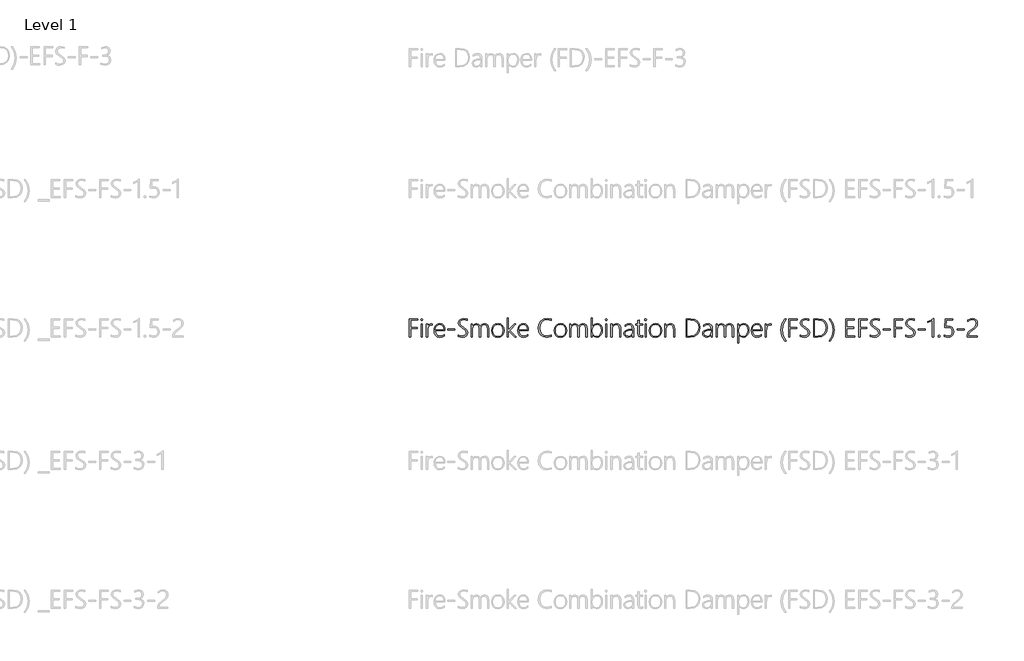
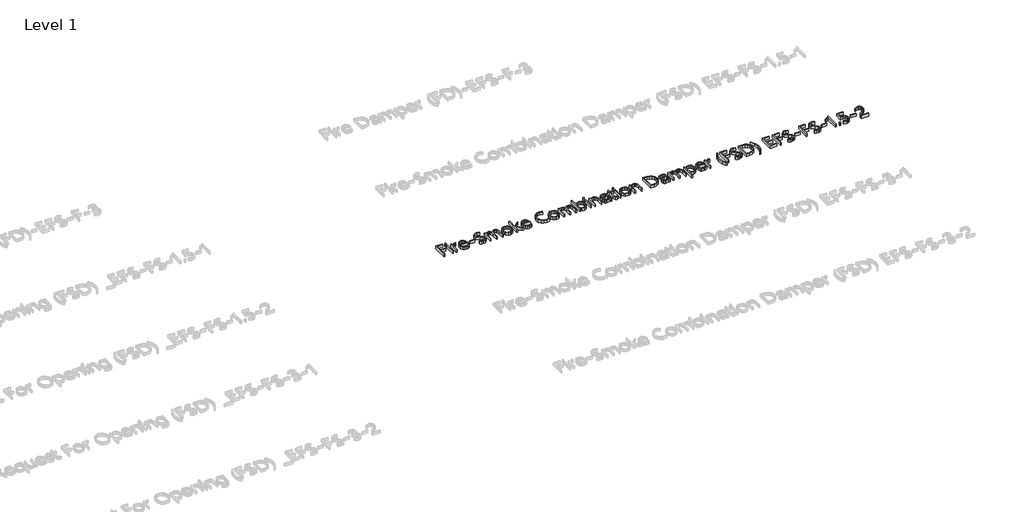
# One storey, part 9 of 13: 1 proxy.
"""IFC4 building model written with IfcOpenShell, lengths in millimetres."""

from ifc_helpers import new_model, si_unit, origin, origin_with_axes, place, context, project, spatial, polyline, outline, extrude, element, save

model = new_model("IFC4")

# Units and contexts
model_context = context("Model", 3, world=origin())
ifc_project = project(units=[si_unit("LENGTHUNIT", "METRE", prefix="MILLI")], contexts=[model_context])

# Site, building, storey
site = spatial("IfcSite", under=ifc_project)
building = spatial("IfcBuilding", under=site)
storey = spatial("IfcBuildingStorey", under=building, Name="Level 1", Elevation=0.0)

# Proxy
placement = place(None, origin())
element("IfcBuildingElementProxy", 1, Name="24\" Arial", ObjectType="24\" Arial", at=placement, inside=storey, context=model_context, shape_type="SweptSolid", body=[
    extrude(outline(polyline([(-11432.1552252, 5549.8953714), (-11432.1552252, 5509.1017359), (-11395.1999406, 5509.1017359), (-11395.1999406, 5502.8235032), (-11432.1552252, 5502.8235032), (-11432.1552252, 5456.2277095), (-11439.0583058, 5456.2277095), (-11439.0583058, 5556.2331135), (-11392.3137388, 5556.2331135), (-11392.3137388, 5549.8953714), (-11432.1552252, 5549.8953714)])), origin_with_axes(), (0.0, 0.0, 1.0), 20.0),
    extrude(outline(polyline([(-11370.6523481, 5545.6404554), (-11374.3419256, 5547.1728202), (-11375.9486771, 5551.0855577), (-11374.312171, 5554.8048899), (-11370.6523481, 5556.2331135), (-11366.8437519, 5554.8346446), (-11365.2072458, 5551.0855577), (-11366.8139973, 5547.2472069), (-11370.6523481, 5545.6404554)])), origin_with_axes(), (0.0, 0.0, 1.0), 20.0),
    extrude(outline(polyline([(-11373.8063418, 5456.2277095), (-11373.8063418, 5527.6388876), (-11367.3793358, 5527.6388876), (-11367.3793358, 5456.2277095), (-11373.8063418, 5456.2277095)])), origin_with_axes(), (0.0, 0.0, 1.0), 20.0),
    extrude(outline(polyline([(-11311.5595982, 5520.9440896), (-11319.0875266, 5523.2351983), (-11326.8348955, 5521.0556696), (-11333.2358662, 5514.5170836), (-11337.5316949, 5503.9690575), (-11338.9636378, 5489.7612085), (-11338.9636378, 5456.2277095), (-11345.2418706, 5456.2277095), (-11345.2418706, 5527.6388876), (-11338.9636378, 5527.6388876), (-11338.9636378, 5511.8094098), (-11330.9298803, 5524.4997712), (-11318.6709614, 5529.0373565), (-11311.5595982, 5527.7876609), (-11311.5595982, 5520.9440896)])), origin_with_axes(), (0.0, 0.0, 1.0), 20.0),
    extrude(outline(polyline([(-11296.0871763, 5491.6655066), (-11294.3874415, 5478.5437026), (-11289.288237, 5468.6354017), (-11281.2284442, 5462.4092396), (-11270.6469441, 5460.3338522), (-11258.7748357, 5462.5505742), (-11247.2002739, 5469.2007402), (-11247.2002739, 5462.3571689), (-11258.9384863, 5456.4434307), (-11271.956149, 5454.4721847), (-11284.4382279, 5456.9492599), (-11294.2721422, 5464.3804856), (-11300.6545162, 5476.3269806), (-11302.7819742, 5492.3498637), (-11300.5578136, 5506.7436793), (-11293.8853316, 5518.6827356), (-11283.6571681, 5526.7164932), (-11270.7659627, 5529.3944124), (-11259.0091537, 5527.0549524), (-11250.3393903, 5520.0365726), (-11244.99471, 5508.978998), (-11243.2131498, 5494.5219537), (-11243.2131498, 5491.6655066), (-11296.0871763, 5491.6655066)]), holes=[polyline([(-11249.9079478, 5497.5271741), (-11251.6188406, 5508.4768881), (-11255.8588793, 5516.6891736), (-11262.4123426, 5521.821852), (-11271.0635093, 5523.5327448), (-11280.2316631, 5521.8478873), (-11287.6814855, 5516.7933149), (-11293.0112886, 5508.6070647), (-11295.8193844, 5497.5271741), (-11249.9079478, 5497.5271741)])]), origin_with_axes(), (0.0, 0.0, 1.0), 20.0),
    extrude(outline(polyline([(-11226.5802963, 5494.9385189), (-11226.5802963, 5501.2167517), (-11188.4348253, 5501.2167517), (-11188.4348253, 5494.9385189), (-11226.5802963, 5494.9385189)])), origin_with_axes(), (0.0, 0.0, 1.0), 20.0),
    extrude(outline(polyline([(-11169.867919, 5459.7982684), (-11169.867919, 5467.653498), (-11159.0595396, 5462.5431355), (-11148.1172643, 5460.8396814), (-11130.3239791, 5465.6748132), (-11125.7715165, 5471.4806908), (-11124.254029, 5479.2280597), (-11128.3452944, 5491.4721013), (-11146.0344383, 5503.9244255), (-11165.2708244, 5518.7571223), (-11169.3025805, 5532.5186514), (-11167.2457898, 5542.3116531), (-11161.0754177, 5550.5053419), (-11151.4758213, 5556.0508662), (-11139.1313577, 5557.8993743), (-11121.2785632, 5554.8941539), (-11121.2785632, 5547.6637721), (-11140.0239975, 5551.6211416), (-11156.1658992, 5546.4587085), (-11160.6402558, 5540.6007603), (-11162.131708, 5533.3517818), (-11158.0553199, 5521.1523722), (-11140.4405627, 5508.8041893), (-11121.7843924, 5494.6856043), (-11117.1426658, 5480.50751), (-11119.1399472, 5470.0561866), (-11125.1317914, 5461.7323211), (-11134.7685811, 5456.2872188), (-11147.7006991, 5454.4721847), (-11159.5876848, 5456.0789362), (-11169.867919, 5459.7982684)])), origin_with_axes(), (0.0, 0.0, 1.0), 20.0),
    extrude(outline(polyline([(-11008.1216006, 5456.2277095), (-11008.1216006, 5499.193435), (-11012.3467619, 5518.0876425), (-11017.7993029, 5522.1714692), (-11025.7066032, 5523.5327448), (-11033.5581134, 5521.7177107), (-11040.271508, 5516.2726084), (-11044.8797606, 5508.0900776), (-11046.4158448, 5498.062758), (-11046.4158448, 5456.2277095), (-11052.8428509, 5456.2277095), (-11052.8428509, 5499.6695095), (-11057.3729975, 5517.566936), (-11063.0356807, 5522.0412926), (-11070.9634373, 5523.5327448), (-11078.9488435, 5521.7102721), (-11085.4688329, 5516.2428537), (-11089.8092935, 5507.881795), (-11091.2561137, 5497.3784008), (-11091.2561137, 5456.2277095), (-11097.6831198, 5456.2277095), (-11097.6831198, 5527.6388876), (-11091.2561137, 5527.6388876), (-11091.2561137, 5515.7965339), (-11081.7941327, 5525.9949427), (-11069.1484032, 5529.3944124), (-11055.8034393, 5524.8865817), (-11048.2903883, 5513.0591054), (-11038.7093885, 5525.0948643), (-11025.1412647, 5529.3944124), (-11014.8963642, 5527.5812379), (-11007.5785781, 5522.1417146), (-11003.1879064, 5513.0758424), (-11001.7243492, 5500.3836213), (-11001.7243492, 5456.2277095), (-11008.1216006, 5456.2277095)])), origin_with_axes(), (0.0, 0.0, 1.0), 20.0),
    extrude(outline(polyline([(-10950.9331488, 5454.4721847), (-10964.9252765, 5457.0459625), (-10975.6592692, 5464.7672962), (-10982.4879631, 5476.6022112), (-10984.7641944, 5491.5167333), (-10982.3838218, 5507.3722464), (-10975.242704, 5519.3522154), (-10964.2186034, 5526.8838631), (-10950.1892823, 5529.3944124), (-10936.5058592, 5526.8987405), (-10926.0433777, 5519.4117248), (-10919.4043698, 5507.5135811), (-10917.1913671, 5491.7845252), (-10919.4490018, 5476.7063525), (-10926.2219057, 5464.7970508), (-10936.9149857, 5457.0534012), (-10950.9331488, 5454.4721847)]), holes=[polyline([(-10950.4570742, 5523.5327448), (-10961.7935988, 5521.4052868), (-10970.5712227, 5515.0229128), (-10976.194853, 5504.8542586), (-10978.0693964, 5491.36796), (-10976.239485, 5478.7296692), (-10970.7497507, 5468.8436843), (-10962.0837067, 5462.4613102), (-10950.7248662, 5460.3338522), (-10939.3176743, 5462.4278362), (-10930.8636323, 5468.7097883), (-10925.6305319, 5478.7036339), (-10923.8861651, 5491.9332985), (-10925.6193739, 5505.4233164), (-10930.8190003, 5515.3650913), (-10939.1949364, 5521.4908315), (-10950.4570742, 5523.5327448)])]), origin_with_axes(), (0.0, 0.0, 1.0), 20.0),
    extrude(outline(polyline([(-10858.7532197, 5456.2277095), (-10892.9413212, 5491.5167333), (-10893.2091131, 5456.2277095), (-10899.6361192, 5456.2277095), (-10899.6361192, 5561.9460077), (-10893.2091131, 5561.9460077), (-10893.2091131, 5493.8078419), (-10860.5087445, 5527.6388876), (-10852.207195, 5527.6388876), (-10886.09775, 5493.0639755), (-10849.4697665, 5456.2277095), (-10858.7532197, 5456.2277095)])), origin_with_axes(), (0.0, 0.0, 1.0), 20.0),
    extrude(outline(polyline([(-10835.2470402, 5491.6655066), (-10833.5473054, 5478.5437026), (-10828.448101, 5468.6354017), (-10820.3883081, 5462.4092396), (-10809.806808, 5460.3338522), (-10797.9346997, 5462.5505742), (-10786.3601379, 5469.2007402), (-10786.3601379, 5462.3571689), (-10798.0983503, 5456.4434307), (-10811.116013, 5454.4721847), (-10823.5980918, 5456.9492599), (-10833.4320061, 5464.3804856), (-10839.8143802, 5476.3269806), (-10841.9418382, 5492.3498637), (-10839.7176775, 5506.7436793), (-10833.0451956, 5518.6827356), (-10822.817032, 5526.7164932), (-10809.9258267, 5529.3944124), (-10798.1690176, 5527.0549524), (-10789.4992543, 5520.0365726), (-10784.1545739, 5508.978998), (-10782.3730138, 5494.5219537), (-10782.3730138, 5491.6655066), (-10835.2470402, 5491.6655066)]), holes=[polyline([(-10789.0678117, 5497.5271741), (-10790.7787045, 5508.4768881), (-10795.0187432, 5516.6891736), (-10801.5722066, 5521.821852), (-10810.2233732, 5523.5327448), (-10819.3915271, 5521.8478873), (-10826.8413495, 5516.7933149), (-10832.1711525, 5508.6070647), (-10834.9792483, 5497.5271741), (-10789.0678117, 5497.5271741)])]), origin_with_axes(), (0.0, 0.0, 1.0), 20.0),
    extrude(outline(polyline([(-10656.5703217, 5459.5007218), (-10681.8915352, 5454.4721847), (-10700.5030735, 5457.9162863), (-10715.3357703, 5468.2485911), (-10725.0432274, 5484.1301396), (-10728.2790464, 5504.2219721), (-10724.7717161, 5526.1251194), (-10714.2497253, 5543.2154508), (-10698.3272642, 5554.2283934), (-10678.6185229, 5557.8993743), (-10656.5703217, 5554.2097968), (-10656.5703217, 5546.890151), (-10678.7375415, 5551.6211416), (-10695.8092763, 5548.4299545), (-10709.3550842, 5538.8563935), (-10718.1922175, 5523.9865034), (-10721.1379285, 5504.9063292), (-10718.3223941, 5486.6220921), (-10709.8757907, 5472.6522804), (-10697.1073232, 5463.7928311), (-10681.3261968, 5460.8396814), (-10656.5703217, 5466.1955197), (-10656.5703217, 5459.5007218)])), origin_with_axes(), (0.0, 0.0, 1.0), 20.0),
    extrude(outline(polyline([(-10606.2551958, 5454.4721847), (-10620.2473235, 5457.0459625), (-10630.9813162, 5464.7672962), (-10637.8100101, 5476.6022112), (-10640.0862414, 5491.5167333), (-10637.7058688, 5507.3722464), (-10630.564751, 5519.3522154), (-10619.5406504, 5526.8838631), (-10605.5113293, 5529.3944124), (-10591.8279062, 5526.8987405), (-10581.3654247, 5519.4117248), (-10574.7264168, 5507.5135811), (-10572.5134141, 5491.7845252), (-10574.7710488, 5476.7063525), (-10581.5439527, 5464.7970508), (-10592.2370327, 5457.0534012), (-10606.2551958, 5454.4721847)]), holes=[polyline([(-10605.7791212, 5523.5327448), (-10617.1156458, 5521.4052868), (-10625.8932697, 5515.0229128), (-10631.5169, 5504.8542586), (-10633.3914434, 5491.36796), (-10631.561532, 5478.7296692), (-10626.0717977, 5468.8436843), (-10617.4057537, 5462.4613102), (-10606.0469132, 5460.3338522), (-10594.6397213, 5462.4278362), (-10586.1856793, 5468.7097883), (-10580.9525789, 5478.7036339), (-10579.2082121, 5491.9332985), (-10580.9414209, 5505.4233164), (-10586.1410473, 5515.3650913), (-10594.5169834, 5521.4908315), (-10605.7791212, 5523.5327448)])]), origin_with_axes(), (0.0, 0.0, 1.0), 20.0),
    extrude(outline(polyline([(-10465.396647, 5456.2277095), (-10465.396647, 5499.193435), (-10469.6218083, 5518.0876425), (-10475.0743493, 5522.1714692), (-10482.9816496, 5523.5327448), (-10490.8331598, 5521.7177107), (-10497.5465544, 5516.2726084), (-10502.154807, 5508.0900776), (-10503.6908912, 5498.062758), (-10503.6908912, 5456.2277095), (-10510.1178972, 5456.2277095), (-10510.1178972, 5499.6695095), (-10514.6480439, 5517.566936), (-10520.3107271, 5522.0412926), (-10528.2384837, 5523.5327448), (-10536.2238899, 5521.7102721), (-10542.7438792, 5516.2428537), (-10547.0843399, 5507.881795), (-10548.5311601, 5497.3784008), (-10548.5311601, 5456.2277095), (-10554.9581662, 5456.2277095), (-10554.9581662, 5527.6388876), (-10548.5311601, 5527.6388876), (-10548.5311601, 5515.7965339), (-10539.069179, 5525.9949427), (-10526.4234496, 5529.3944124), (-10513.0784857, 5524.8865817), (-10505.5654346, 5513.0591054), (-10495.9844349, 5525.0948643), (-10482.4163111, 5529.3944124), (-10472.1714105, 5527.5812379), (-10464.8536245, 5522.1417146), (-10460.4629528, 5513.0758424), (-10458.9993956, 5500.3836213), (-10458.9993956, 5456.2277095), (-10465.396647, 5456.2277095)])), origin_with_axes(), (0.0, 0.0, 1.0), 20.0),
    extrude(outline(polyline([(-10430.1968871, 5468.9329482), (-10430.464679, 5456.2277095), (-10436.891685, 5456.2277095), (-10436.891685, 5561.9460077), (-10430.464679, 5561.9460077), (-10430.464679, 5512.9103321), (-10419.2025411, 5525.0948643), (-10403.4772046, 5529.3944124), (-10391.3707783, 5527.0475138), (-10382.2472564, 5520.0068179), (-10376.5232042, 5508.9418046), (-10374.6151868, 5494.5219537), (-10376.8281894, 5478.301946), (-10383.4671974, 5465.5260399), (-10393.6470096, 5457.2356485), (-10406.482425, 5454.4721847), (-10420.4299207, 5458.0873756), (-10430.1968871, 5468.9329482)]), holes=[polyline([(-10430.464679, 5495.5038574), (-10430.464679, 5486.4881962), (-10428.7723828, 5476.5055086), (-10423.6954944, 5468.0403085), (-10415.8663001, 5462.2604663), (-10405.9170865, 5460.3338522), (-10395.9976276, 5462.6807508), (-10388.1386786, 5469.7214467), (-10383.0171582, 5480.5781773), (-10381.3099847, 5494.3731804), (-10382.8795429, 5506.3866234), (-10387.5882175, 5515.6477606), (-10394.9078632, 5521.5614988), (-10404.310335, 5523.5327448), (-10415.3902256, 5521.4387608), (-10423.6359851, 5515.1568087), (-10428.7575055, 5506.0556029), (-10430.464679, 5495.5038574)])]), origin_with_axes(), (0.0, 0.0, 1.0), 20.0),
    extrude(outline(polyline([(-10356.9111655, 5456.2277095), (-10356.9111655, 5527.6388876), (-10350.4841595, 5527.6388876), (-10350.4841595, 5456.2277095), (-10356.9111655, 5456.2277095)])), origin_with_axes(), (0.0, 0.0, 1.0), 20.0),
    extrude(outline(polyline([(-10353.7571718, 5545.6404554), (-10357.4467494, 5547.1728202), (-10359.0535009, 5551.0855577), (-10357.4169947, 5554.8048899), (-10353.7571718, 5556.2331135), (-10349.9485757, 5554.8346446), (-10348.3120695, 5551.0855577), (-10349.918821, 5547.2472069), (-10353.7571718, 5545.6404554)])), origin_with_axes(), (0.0, 0.0, 1.0), 20.0),
    extrude(outline(polyline([(-10279.7870932, 5456.2277095), (-10279.7870932, 5497.7949661), (-10284.4288198, 5517.0983001), (-10290.230978, 5521.9241337), (-10298.3539995, 5523.5327448), (-10307.7527519, 5521.6396047), (-10315.299277, 5515.9601845), (-10320.2645854, 5507.4912651), (-10321.9196883, 5497.2296276), (-10321.9196883, 5456.2277095), (-10328.3466943, 5456.2277095), (-10328.3466943, 5527.6388876), (-10321.9196883, 5527.6388876), (-10321.9196883, 5514.6658569), (-10311.6320154, 5525.7122735), (-10297.2233225, 5529.3944124), (-10287.0100363, 5527.4677983), (-10279.5193013, 5521.6879561), (-10274.9222067, 5512.3301163), (-10273.3898418, 5499.6695095), (-10273.3898418, 5456.2277095), (-10279.7870932, 5456.2277095)])), origin_with_axes(), (0.0, 0.0, 1.0), 20.0),
    extrude(outline(polyline([(-10209.4768374, 5456.2277095), (-10209.4768374, 5470.5099451), (-10219.6975623, 5458.831242), (-10234.1732032, 5454.4721847), (-10243.2892864, 5455.9041276), (-10250.2853502, 5460.1999562), (-10254.7373909, 5466.6753136), (-10256.2214044, 5474.6458425), (-10254.6741622, 5483.0645509), (-10250.0324356, 5489.6347512), (-10231.4655293, 5497.2296276), (-10209.4768374, 5500.5026399), (-10213.7987014, 5517.7752186), (-10219.2010314, 5522.0933633), (-10226.7642934, 5523.5327448), (-10238.4132419, 5521.1598109), (-10249.7348891, 5514.0410091), (-10249.7348891, 5521.77722), (-10238.9488257, 5527.162813), (-10226.1394456, 5529.3944124), (-10216.3761986, 5527.6835196), (-10209.1049042, 5522.5508411), (-10204.5859156, 5514.1600277), (-10203.079586, 5502.6747299), (-10203.079586, 5456.2277095), (-10209.4768374, 5456.2277095)]), holes=[polyline([(-10229.144666, 5491.7845252), (-10244.9146345, 5486.5923375), (-10249.4373425, 5474.9136344), (-10245.2270584, 5464.4548723), (-10233.4590914, 5460.3338522), (-10224.0268649, 5462.245589), (-10216.3204086, 5467.9807992), (-10211.1877302, 5476.7286685), (-10209.4768374, 5487.6783825), (-10209.4768374, 5494.6409724), (-10229.144666, 5491.7845252)])]), origin_with_axes(), (0.0, 0.0, 1.0), 20.0),
    extrude(outline(polyline([(-10153.4488173, 5457.2096132), (-10162.8810437, 5454.8292406), (-10174.7531521, 5459.5751084), (-10178.7105215, 5473.8127121), (-10178.7105215, 5521.77722), (-10191.5347789, 5521.77722), (-10191.5347789, 5527.6388876), (-10178.7105215, 5527.6388876), (-10178.7105215, 5546.1760392), (-10175.4970185, 5547.3067162), (-10172.2835155, 5548.3481292), (-10172.2835155, 5527.6388876), (-10153.4488173, 5527.6388876), (-10153.4488173, 5521.77722), (-10172.2835155, 5521.77722), (-10172.2835155, 5474.6458425), (-10169.9477749, 5463.9341658), (-10162.0479133, 5460.6313988), (-10153.4488173, 5463.1902993), (-10153.4488173, 5457.2096132)])), origin_with_axes(), (0.0, 0.0, 1.0), 20.0),
    extrude(outline(polyline([(-10136.6671904, 5545.6404554), (-10140.3567679, 5547.1728202), (-10141.9635194, 5551.0855577), (-10140.3270133, 5554.8048899), (-10136.6671904, 5556.2331135), (-10132.8585942, 5554.8346446), (-10131.2220881, 5551.0855577), (-10132.8288396, 5547.2472069), (-10136.6671904, 5545.6404554)])), origin_with_axes(), (0.0, 0.0, 1.0), 20.0),
    extrude(outline(polyline([(-10139.8211841, 5456.2277095), (-10139.8211841, 5527.6388876), (-10133.3941781, 5527.6388876), (-10133.3941781, 5456.2277095), (-10139.8211841, 5456.2277095)])), origin_with_axes(), (0.0, 0.0, 1.0), 20.0),
    extrude(outline(polyline([(-10082.573223, 5454.4721847), (-10096.5653507, 5457.0459625), (-10107.2993434, 5464.7672962), (-10114.1280373, 5476.6022112), (-10116.4042686, 5491.5167333), (-10114.023896, 5507.3722464), (-10106.8827782, 5519.3522154), (-10095.8586776, 5526.8838631), (-10081.8293565, 5529.3944124), (-10068.1459334, 5526.8987405), (-10057.6834519, 5519.4117248), (-10051.044444, 5507.5135811), (-10048.8314413, 5491.7845252), (-10051.089076, 5476.7063525), (-10057.8619799, 5464.7970508), (-10068.5550599, 5457.0534012), (-10082.573223, 5454.4721847)]), holes=[polyline([(-10082.0971485, 5523.5327448), (-10093.433673, 5521.4052868), (-10102.211297, 5515.0229128), (-10107.8349272, 5504.8542586), (-10109.7094707, 5491.36796), (-10107.8795592, 5478.7296692), (-10102.3898249, 5468.8436843), (-10093.7237809, 5462.4613102), (-10082.3649404, 5460.3338522), (-10070.9577485, 5462.4278362), (-10062.5037065, 5468.7097883), (-10057.2706061, 5478.7036339), (-10055.5262393, 5491.9332985), (-10057.2594481, 5505.4233164), (-10062.4590745, 5515.3650913), (-10070.8350106, 5521.4908315), (-10082.0971485, 5523.5327448)])]), origin_with_axes(), (0.0, 0.0, 1.0), 20.0),
    extrude(outline(polyline([(-9982.7165923, 5456.2277095), (-9982.7165923, 5497.7949661), (-9987.3583188, 5517.0983001), (-9993.1604771, 5521.9241337), (-10001.2834986, 5523.5327448), (-10010.682251, 5521.6396047), (-10018.228776, 5515.9601845), (-10023.1940845, 5507.4912651), (-10024.8491873, 5497.2296276), (-10024.8491873, 5456.2277095), (-10031.2761934, 5456.2277095), (-10031.2761934, 5527.6388876), (-10024.8491873, 5527.6388876), (-10024.8491873, 5514.6658569), (-10014.5615145, 5525.7122735), (-10000.1528216, 5529.3944124), (-9989.9395354, 5527.4677983), (-9982.4488003, 5521.6879561), (-9977.8517058, 5512.3301163), (-9976.3193409, 5499.6695095), (-9976.3193409, 5456.2277095), (-9982.7165923, 5456.2277095)])), origin_with_axes(), (0.0, 0.0, 1.0), 20.0),
    extrude(outline(polyline([(-9913.7155414, 5456.2277095), (-9913.7155414, 5556.2331135), (-9888.6621198, 5556.2331135), (-9866.7626918, 5553.1311904), (-9850.8141954, 5543.8254213), (-9841.0844223, 5528.5687206), (-9837.8411647, 5507.614003), (-9841.3187403, 5486.9084807), (-9851.7514671, 5470.4950678), (-9868.3062147, 5459.794549), (-9890.1498526, 5456.2277095), (-9913.7155414, 5456.2277095)]), holes=[polyline([(-9906.8124609, 5549.8953714), (-9906.8124609, 5462.5059422), (-9891.1020017, 5462.5059422), (-9871.4490504, 5465.392144), (-9856.9436548, 5474.0507493), (-9847.9949416, 5488.1470183), (-9845.0120371, 5507.3462111), (-9847.8052556, 5525.9614688), (-9856.184911, 5539.2580813), (-9870.1510034, 5547.2360489), (-9889.7035328, 5549.8953714), (-9906.8124609, 5549.8953714)])]), origin_with_axes(), (0.0, 0.0, 1.0), 20.0),
    extrude(outline(polyline([(-9775.2968745, 5456.2277095), (-9775.2968745, 5470.5099451), (-9785.5175994, 5458.831242), (-9799.9932403, 5454.4721847), (-9809.1093235, 5455.9041276), (-9816.1053873, 5460.1999562), (-9820.557428, 5466.6753136), (-9822.0414415, 5474.6458425), (-9820.4941993, 5483.0645509), (-9815.8524727, 5489.6347512), (-9797.2855664, 5497.2296276), (-9775.2968745, 5500.5026399), (-9779.6187385, 5517.7752186), (-9785.0210685, 5522.0933633), (-9792.5843305, 5523.5327448), (-9804.233279, 5521.1598109), (-9815.5549262, 5514.0410091), (-9815.5549262, 5521.77722), (-9804.7688628, 5527.162813), (-9791.9594827, 5529.3944124), (-9782.1962357, 5527.6835196), (-9774.9249413, 5522.5508411), (-9770.4059527, 5514.1600277), (-9768.8996231, 5502.6747299), (-9768.8996231, 5456.2277095), (-9775.2968745, 5456.2277095)]), holes=[polyline([(-9794.9647032, 5491.7845252), (-9810.7346716, 5486.5923375), (-9815.2573796, 5474.9136344), (-9811.0470956, 5464.4548723), (-9799.2791285, 5460.3338522), (-9789.8469021, 5462.245589), (-9782.1404457, 5467.9807992), (-9777.0077673, 5476.7286685), (-9775.2968745, 5487.6783825), (-9775.2968745, 5494.6409724), (-9794.9647032, 5491.7845252)])]), origin_with_axes(), (0.0, 0.0, 1.0), 20.0),
    extrude(outline(polyline([(-9657.9742598, 5456.2277095), (-9657.9742598, 5499.193435), (-9662.1994212, 5518.0876425), (-9667.6519622, 5522.1714692), (-9675.5592624, 5523.5327448), (-9683.4107727, 5521.7177107), (-9690.1241673, 5516.2726084), (-9694.7324199, 5508.0900776), (-9696.2685041, 5498.062758), (-9696.2685041, 5456.2277095), (-9702.6955101, 5456.2277095), (-9702.6955101, 5499.6695095), (-9707.2256567, 5517.566936), (-9712.88834, 5522.0412926), (-9720.8160965, 5523.5327448), (-9728.8015028, 5521.7102721), (-9735.3214921, 5516.2428537), (-9739.6619528, 5507.881795), (-9741.108773, 5497.3784008), (-9741.108773, 5456.2277095), (-9747.535779, 5456.2277095), (-9747.535779, 5527.6388876), (-9741.108773, 5527.6388876), (-9741.108773, 5515.7965339), (-9731.6467919, 5525.9949427), (-9719.0010624, 5529.3944124), (-9705.6560985, 5524.8865817), (-9698.1430475, 5513.0591054), (-9688.5620478, 5525.0948643), (-9674.9939239, 5529.3944124), (-9664.7490234, 5527.5812379), (-9657.4312373, 5522.1417146), (-9653.0405657, 5513.0758424), (-9651.5770084, 5500.3836213), (-9651.5770084, 5456.2277095), (-9657.9742598, 5456.2277095)])), origin_with_axes(), (0.0, 0.0, 1.0), 20.0),
    extrude(outline(polyline([(-9622.7744999, 5468.9329482), (-9623.0422919, 5423.3785675), (-9629.4692979, 5423.3785675), (-9629.4692979, 5527.6388876), (-9623.0422919, 5527.6388876), (-9623.0422919, 5512.9103321), (-9611.780154, 5525.0948643), (-9596.0548175, 5529.3944124), (-9583.9483912, 5527.0475138), (-9574.8248693, 5520.0068179), (-9569.1008171, 5508.9418046), (-9567.1927996, 5494.5219537), (-9569.379767, 5478.301946), (-9575.940669, 5465.5260399), (-9586.0944459, 5457.2356485), (-9599.0600379, 5454.4721847), (-9613.0075336, 5458.0873756), (-9622.7744999, 5468.9329482)]), holes=[polyline([(-9623.0422919, 5495.5038574), (-9623.0422919, 5486.4881962), (-9621.3499957, 5476.5055086), (-9616.2731073, 5468.0403085), (-9608.443913, 5462.2604663), (-9598.4946994, 5460.3338522), (-9588.5752404, 5462.6807508), (-9580.7162915, 5469.7214467), (-9575.5947711, 5480.5781773), (-9573.8875976, 5494.3731804), (-9575.4571558, 5506.3866234), (-9580.1658303, 5515.6477606), (-9587.4854761, 5521.5614988), (-9596.8879479, 5523.5327448), (-9607.9678385, 5521.4387608), (-9616.213598, 5515.1568087), (-9621.3351184, 5506.0556029), (-9623.0422919, 5495.5038574)])]), origin_with_axes(), (0.0, 0.0, 1.0), 20.0),
    extrude(outline(polyline([(-9547.9415362, 5491.6655066), (-9546.2418014, 5478.5437026), (-9541.142597, 5468.6354017), (-9533.0828041, 5462.4092396), (-9522.501304, 5460.3338522), (-9510.6291957, 5462.5505742), (-9499.0546339, 5469.2007402), (-9499.0546339, 5462.3571689), (-9510.7928463, 5456.4434307), (-9523.8105089, 5454.4721847), (-9536.2925878, 5456.9492599), (-9546.1265021, 5464.3804856), (-9552.5088761, 5476.3269806), (-9554.6363342, 5492.3498637), (-9552.4121735, 5506.7436793), (-9545.7396916, 5518.6827356), (-9535.511528, 5526.7164932), (-9522.6203226, 5529.3944124), (-9510.8635136, 5527.0549524), (-9502.1937502, 5520.0365726), (-9496.8490699, 5508.978998), (-9495.0675098, 5494.5219537), (-9495.0675098, 5491.6655066), (-9547.9415362, 5491.6655066)]), holes=[polyline([(-9501.7623077, 5497.5271741), (-9503.4732005, 5508.4768881), (-9507.7132392, 5516.6891736), (-9514.2667025, 5521.821852), (-9522.9178692, 5523.5327448), (-9532.0860231, 5521.8478873), (-9539.5358455, 5516.7933149), (-9544.8656485, 5508.6070647), (-9547.6737443, 5497.5271741), (-9501.7623077, 5497.5271741)])]), origin_with_axes(), (0.0, 0.0, 1.0), 20.0),
    extrude(outline(polyline([(-9443.4431789, 5520.9440896), (-9450.9711073, 5523.2351983), (-9458.7184762, 5521.0556696), (-9465.1194469, 5514.5170836), (-9469.4152756, 5503.9690575), (-9470.8472185, 5489.7612085), (-9470.8472185, 5456.2277095), (-9477.1254513, 5456.2277095), (-9477.1254513, 5527.6388876), (-9470.8472185, 5527.6388876), (-9470.8472185, 5511.8094098), (-9462.813461, 5524.4997712), (-9450.5545421, 5529.0373565), (-9443.4431789, 5527.7876609), (-9443.4431789, 5520.9440896)])), origin_with_axes(), (0.0, 0.0, 1.0), 20.0),
    extrude(outline(polyline([(-9369.3540816, 5433.4951511), (-9385.1984368, 5461.025648), (-9390.4798885, 5494.2244071), (-9385.1314888, 5528.561282), (-9369.0862897, 5556.2331135), (-9362.2427185, 5556.2331135), (-9378.6226575, 5528.2116647), (-9384.0826371, 5494.3731804), (-9378.6970441, 5461.8215851), (-9362.5402651, 5433.4951511), (-9369.3540816, 5433.4951511)])), origin_with_axes(), (0.0, 0.0, 1.0), 20.0),
    extrude(outline(polyline([(-9341.2359302, 5549.8953714), (-9341.2359302, 5509.1017359), (-9304.2806456, 5509.1017359), (-9304.2806456, 5502.8235032), (-9341.2359302, 5502.8235032), (-9341.2359302, 5456.2277095), (-9348.1390108, 5456.2277095), (-9348.1390108, 5556.2331135), (-9301.3944438, 5556.2331135), (-9301.3944438, 5549.8953714), (-9341.2359302, 5549.8953714)])), origin_with_axes(), (0.0, 0.0, 1.0), 20.0),
    extrude(outline(polyline([(-9284.6128169, 5459.7982684), (-9284.6128169, 5467.653498), (-9273.8044376, 5462.5431355), (-9262.8621623, 5460.8396814), (-9245.0688771, 5465.6748132), (-9240.5164145, 5471.4806908), (-9238.9989269, 5479.2280597), (-9243.0901923, 5491.4721013), (-9260.7793362, 5503.9244255), (-9280.0157224, 5518.7571223), (-9284.0474784, 5532.5186514), (-9281.9906877, 5542.3116531), (-9275.8203156, 5550.5053419), (-9266.2207192, 5556.0508662), (-9253.8762557, 5557.8993743), (-9236.0234612, 5554.8941539), (-9236.0234612, 5547.6637721), (-9254.7688954, 5551.6211416), (-9270.9107971, 5546.4587085), (-9275.3851538, 5540.6007603), (-9276.876606, 5533.3517818), (-9272.8002179, 5521.1523722), (-9255.1854606, 5508.8041893), (-9236.5292903, 5494.6856043), (-9231.8875638, 5480.50751), (-9233.8848452, 5470.0561866), (-9239.8766893, 5461.7323211), (-9249.513479, 5456.2872188), (-9262.4455971, 5454.4721847), (-9274.3325828, 5456.0789362), (-9284.6128169, 5459.7982684)])), origin_with_axes(), (0.0, 0.0, 1.0), 20.0),
    extrude(outline(polyline([(-9211.0295488, 5456.2277095), (-9211.0295488, 5556.2331135), (-9185.9761272, 5556.2331135), (-9164.0766992, 5553.1311904), (-9148.1282028, 5543.8254213), (-9138.3984298, 5528.5687206), (-9135.1551721, 5507.614003), (-9138.6327477, 5486.9084807), (-9149.0654745, 5470.4950678), (-9165.6202221, 5459.794549), (-9187.4638601, 5456.2277095), (-9211.0295488, 5456.2277095)]), holes=[polyline([(-9204.1264683, 5549.8953714), (-9204.1264683, 5462.5059422), (-9188.4160091, 5462.5059422), (-9168.7630578, 5465.392144), (-9154.2576622, 5474.0507493), (-9145.308949, 5488.1470183), (-9142.3260446, 5507.3462111), (-9145.119263, 5525.9614688), (-9153.4989185, 5539.2580813), (-9167.4650109, 5547.2360489), (-9187.0175402, 5549.8953714), (-9204.1264683, 5549.8953714)])]), origin_with_axes(), (0.0, 0.0, 1.0), 20.0),
    extrude(outline(polyline([(-9118.0164893, 5433.4951511), (-9124.8600606, 5433.4951511), (-9108.6809655, 5461.8215851), (-9103.2879339, 5494.3731804), (-9108.7479135, 5528.2116647), (-9125.1278525, 5556.2331135), (-9118.2842813, 5556.2331135), (-9102.2390822, 5528.4868953), (-9096.8906825, 5494.2244071), (-9102.1721342, 5460.9512613), (-9118.0164893, 5433.4951511)])), origin_with_axes(), (0.0, 0.0, 1.0), 20.0),
    extrude(outline(polyline([(-9033.9298271, 5456.2277095), (-9033.9298271, 5556.2331135), (-8987.1852601, 5556.2331135), (-8987.1852601, 5549.8953714), (-9027.0267466, 5549.8953714), (-9027.0267466, 5509.786093), (-8990.0714619, 5509.786093), (-8990.0714619, 5503.5078603), (-9027.0267466, 5503.5078603), (-9027.0267466, 5462.5059422), (-8984.8941515, 5462.5059422), (-8984.8941515, 5456.2277095), (-9033.9298271, 5456.2277095)])), origin_with_axes(), (0.0, 0.0, 1.0), 20.0),
    extrude(outline(polyline([(-8954.6634194, 5549.8953714), (-8954.6634194, 5509.1017359), (-8917.7081348, 5509.1017359), (-8917.7081348, 5502.8235032), (-8954.6634194, 5502.8235032), (-8954.6634194, 5456.2277095), (-8961.5665, 5456.2277095), (-8961.5665, 5556.2331135), (-8914.821933, 5556.2331135), (-8914.821933, 5549.8953714), (-8954.6634194, 5549.8953714)])), origin_with_axes(), (0.0, 0.0, 1.0), 20.0),
    extrude(outline(polyline([(-8898.0403061, 5459.7982684), (-8898.0403061, 5467.653498), (-8887.2319268, 5462.5431355), (-8876.2896515, 5460.8396814), (-8858.4963662, 5465.6748132), (-8853.9439036, 5471.4806908), (-8852.4264161, 5479.2280597), (-8856.5176815, 5491.4721013), (-8874.2068254, 5503.9244255), (-8893.4432115, 5518.7571223), (-8897.4749676, 5532.5186514), (-8895.4181769, 5542.3116531), (-8889.2478048, 5550.5053419), (-8879.6482084, 5556.0508662), (-8867.3037449, 5557.8993743), (-8849.4509503, 5554.8941539), (-8849.4509503, 5547.6637721), (-8868.1963846, 5551.6211416), (-8884.3382863, 5546.4587085), (-8888.8126429, 5540.6007603), (-8890.3040952, 5533.3517818), (-8886.2277071, 5521.1523722), (-8868.6129498, 5508.8041893), (-8849.9567795, 5494.6856043), (-8845.315053, 5480.50751), (-8847.3123343, 5470.0561866), (-8853.3041785, 5461.7323211), (-8862.9409682, 5456.2872188), (-8875.8730862, 5454.4721847), (-8887.7600719, 5456.0789362), (-8898.0403061, 5459.7982684)])), origin_with_axes(), (0.0, 0.0, 1.0), 20.0),
    extrude(outline(polyline([(-8827.1647118, 5494.9385189), (-8827.1647118, 5501.2167517), (-8789.0192409, 5501.2167517), (-8789.0192409, 5494.9385189), (-8827.1647118, 5494.9385189)])), origin_with_axes(), (0.0, 0.0, 1.0), 20.0),
    extrude(outline(polyline([(-8760.425015, 5549.8953714), (-8760.425015, 5509.1017359), (-8723.4697303, 5509.1017359), (-8723.4697303, 5502.8235032), (-8760.425015, 5502.8235032), (-8760.425015, 5456.2277095), (-8767.3280955, 5456.2277095), (-8767.3280955, 5556.2331135), (-8720.5835285, 5556.2331135), (-8720.5835285, 5549.8953714), (-8760.425015, 5549.8953714)])), origin_with_axes(), (0.0, 0.0, 1.0), 20.0),
    extrude(outline(polyline([(-8703.8019017, 5459.7982684), (-8703.8019017, 5467.653498), (-8692.9935223, 5462.5431355), (-8682.051247, 5460.8396814), (-8664.2579618, 5465.6748132), (-8659.7054992, 5471.4806908), (-8658.1880117, 5479.2280597), (-8662.2792771, 5491.4721013), (-8679.968421, 5503.9244255), (-8699.2048071, 5518.7571223), (-8703.2365632, 5532.5186514), (-8701.1797725, 5542.3116531), (-8695.0094004, 5550.5053419), (-8685.409804, 5556.0508662), (-8673.0653404, 5557.8993743), (-8655.2125459, 5554.8941539), (-8655.2125459, 5547.6637721), (-8673.9579801, 5551.6211416), (-8690.0998819, 5546.4587085), (-8694.5742385, 5540.6007603), (-8696.0656907, 5533.3517818), (-8691.9893026, 5521.1523722), (-8674.3745454, 5508.8041893), (-8655.7183751, 5494.6856043), (-8651.0766485, 5480.50751), (-8653.0739299, 5470.0561866), (-8659.065774, 5461.7323211), (-8668.7025638, 5456.2872188), (-8681.6346818, 5454.4721847), (-8693.5216675, 5456.0789362), (-8703.8019017, 5459.7982684)])), origin_with_axes(), (0.0, 0.0, 1.0), 20.0),
    extrude(outline(polyline([(-8632.9263074, 5494.9385189), (-8632.9263074, 5501.2167517), (-8594.7808364, 5501.2167517), (-8594.7808364, 5494.9385189), (-8632.9263074, 5494.9385189)])), origin_with_axes(), (0.0, 0.0, 1.0), 20.0),
    extrude(outline(polyline([(-8549.2264557, 5558.4647128), (-8549.2264557, 5456.2277095), (-8555.6534618, 5456.2277095), (-8555.6534618, 5548.3481292), (-8566.6329304, 5540.3887583), (-8580.1117903, 5534.4824588), (-8580.1117903, 5540.3441263), (-8571.9738914, 5543.6468933), (-8564.758387, 5547.7232814), (-8558.063589, 5552.6327999), (-8551.458055, 5558.4647128), (-8549.2264557, 5558.4647128)])), origin_with_axes(), (0.0, 0.0, 1.0), 20.0),
    extrude(outline(polyline([(-8518.6684224, 5454.9780138), (-8522.6406692, 5456.61452), (-8524.2325434, 5460.6313988), (-8522.6406692, 5464.6334002), (-8518.6684224, 5466.1955197), (-8514.621789, 5464.6334002), (-8512.9555282, 5460.6313988), (-8514.621789, 5456.61452), (-8518.6684224, 5454.9780138)])), origin_with_axes(), (0.0, 0.0, 1.0), 20.0),
    extrude(outline(polyline([(-8490.9668362, 5458.2510262), (-8490.9668362, 5465.6301812), (-8471.8643461, 5460.3338522), (-8460.9220708, 5462.0261484), (-8452.672592, 5467.1030368), (-8447.4952816, 5474.9843017), (-8445.7695114, 5485.0897273), (-8447.5082992, 5495.7772283), (-8452.7246626, 5503.4111577), (-8461.4186016, 5507.9915153), (-8473.5901162, 5509.5183011), (-8487.9616158, 5508.6851707), (-8484.9563954, 5556.2331135), (-8443.3296295, 5556.2331135), (-8443.3296295, 5550.3714459), (-8479.2435012, 5550.3714459), (-8481.5643645, 5514.8146302), (-8471.2394983, 5515.3799687), (-8457.3254766, 5513.4347579), (-8447.242367, 5507.5991257), (-8441.1166269, 5498.2896372), (-8439.0747135, 5485.9228577), (-8441.2356455, 5473.2324962), (-8447.7184415, 5463.1902993), (-8458.2181163, 5456.6517133), (-8472.4296846, 5454.4721847), (-8490.9668362, 5458.2510262)])), origin_with_axes(), (0.0, 0.0, 1.0), 20.0),
    extrude(outline(polyline([(-8417.740624, 5494.9385189), (-8417.740624, 5501.2167517), (-8379.5951531, 5501.2167517), (-8379.5951531, 5494.9385189), (-8417.740624, 5494.9385189)])), origin_with_axes(), (0.0, 0.0, 1.0), 20.0),
    extrude(outline(polyline([(-8364.0334672, 5456.2277095), (-8364.0334672, 5460.8991907), (-8363.2598461, 5469.3048815), (-8360.9241054, 5476.1782073), (-8357.0262453, 5482.0696295), (-8351.581143, 5487.5742412), (-8344.5292891, 5493.2276261), (-8335.9153158, 5499.5207362), (-8327.4501157, 5506.0221289), (-8320.5767898, 5512.9252094), (-8315.9499406, 5521.0482309), (-8314.2539251, 5531.2094465), (-8315.6226393, 5539.9870705), (-8319.7287821, 5546.5628498), (-8326.3045614, 5550.6689925), (-8335.0821854, 5552.0377068), (-8347.9957067, 5549.106873), (-8360.135607, 5540.9689741), (-8360.135607, 5548.4969025), (-8347.7874241, 5555.3851057), (-8333.981263, 5557.8993743), (-8323.0910584, 5556.0843402), (-8314.7597543, 5550.9219071), (-8309.4336706, 5542.8435176), (-8307.5591271, 5532.2508595), (-8309.5378119, 5520.0068179), (-8314.9382822, 5510.3067995), (-8322.9274078, 5502.2879193), (-8332.5827941, 5494.9980282), (-8344.0085826, 5486.4584415), (-8351.6108976, 5479.1834278), (-8355.836059, 5471.8489047), (-8357.1303866, 5463.13079), (-8307.4103539, 5462.089377), (-8307.4103539, 5456.2277095), (-8364.0334672, 5456.2277095)])), origin_with_axes(), (0.0, 0.0, 1.0), 20.0),
])

save(model, "model.ifc")
